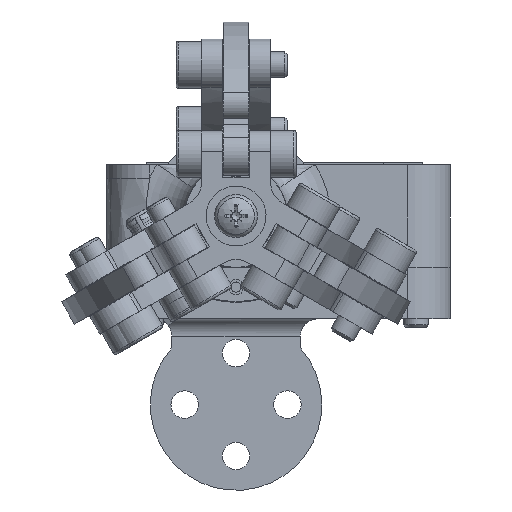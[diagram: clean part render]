
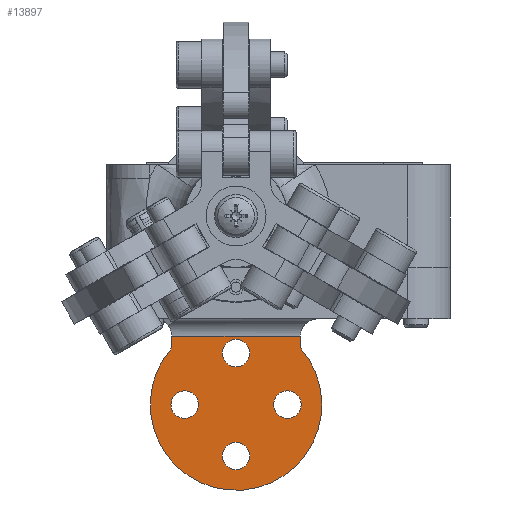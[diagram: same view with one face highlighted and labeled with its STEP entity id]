
A CAD part, front view. The second image highlights one B-rep face of the part: STEP entity #13897.
In plain terms, the highlighted planar face has unit normal (0, -1, 0).
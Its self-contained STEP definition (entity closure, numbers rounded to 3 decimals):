
#717=FACE_BOUND('',#2611,.T.);
#718=FACE_BOUND('',#2612,.T.);
#719=FACE_BOUND('',#2613,.T.);
#720=FACE_BOUND('',#2614,.T.);
#1094=PLANE('',#15344);
#1800=FACE_OUTER_BOUND('',#2610,.T.);
#2610=EDGE_LOOP('',(#12678,#12679,#12680,#12681));
#2611=EDGE_LOOP('',(#12682));
#2612=EDGE_LOOP('',(#12683));
#2613=EDGE_LOOP('',(#12684));
#2614=EDGE_LOOP('',(#12685));
#3805=LINE('',#40233,#5035);
#3806=LINE('',#40236,#5036);
#3809=LINE('',#40242,#5039);
#5035=VECTOR('',#18870,10.);
#5036=VECTOR('',#18873,10.);
#5039=VECTOR('',#18878,10.);
#5603=CIRCLE('',#15345,10.);
#5604=CIRCLE('',#15346,1.6);
#5605=CIRCLE('',#15347,1.6);
#5606=CIRCLE('',#15348,1.6);
#5607=CIRCLE('',#15349,1.6);
#6866=VERTEX_POINT('',#40208);
#6874=VERTEX_POINT('',#40224);
#6877=VERTEX_POINT('',#40235);
#6879=VERTEX_POINT('',#40241);
#6880=VERTEX_POINT('',#40244);
#6881=VERTEX_POINT('',#40246);
#6882=VERTEX_POINT('',#40248);
#6883=VERTEX_POINT('',#40250);
#8827=EDGE_CURVE('',#6874,#6866,#3805,.T.);
#8828=EDGE_CURVE('',#6877,#6866,#3806,.T.);
#8831=EDGE_CURVE('',#6874,#6879,#3809,.T.);
#8832=EDGE_CURVE('',#6879,#6877,#5603,.T.);
#8833=EDGE_CURVE('',#6880,#6880,#5604,.T.);
#8834=EDGE_CURVE('',#6881,#6881,#5605,.T.);
#8835=EDGE_CURVE('',#6882,#6882,#5606,.T.);
#8836=EDGE_CURVE('',#6883,#6883,#5607,.T.);
#12678=ORIENTED_EDGE('',*,*,#8827,.F.);
#12679=ORIENTED_EDGE('',*,*,#8831,.T.);
#12680=ORIENTED_EDGE('',*,*,#8832,.T.);
#12681=ORIENTED_EDGE('',*,*,#8828,.T.);
#12682=ORIENTED_EDGE('',*,*,#8833,.T.);
#12683=ORIENTED_EDGE('',*,*,#8834,.T.);
#12684=ORIENTED_EDGE('',*,*,#8835,.T.);
#12685=ORIENTED_EDGE('',*,*,#8836,.T.);
#13897=ADVANCED_FACE('',(#1800,#717,#718,#719,#720),#1094,.F.);
#15344=AXIS2_PLACEMENT_3D('',#40240,#18876,#18877);
#15345=AXIS2_PLACEMENT_3D('',#40243,#18879,#18880);
#15346=AXIS2_PLACEMENT_3D('',#40245,#18881,#18882);
#15347=AXIS2_PLACEMENT_3D('',#40247,#18883,#18884);
#15348=AXIS2_PLACEMENT_3D('',#40249,#18885,#18886);
#15349=AXIS2_PLACEMENT_3D('',#40251,#18887,#18888);
#18870=DIRECTION('',(-1.,0.,0.));
#18873=DIRECTION('',(0.,0.,-1.));
#18876=DIRECTION('center_axis',(0.,1.,0.));
#18877=DIRECTION('ref_axis',(0.,0.,1.));
#18878=DIRECTION('',(0.,0.,1.));
#18879=DIRECTION('center_axis',(0.,-1.,0.));
#18880=DIRECTION('ref_axis',(1.,0.,0.));
#18881=DIRECTION('center_axis',(0.,1.,0.));
#18882=DIRECTION('ref_axis',(1.,0.,0.));
#18883=DIRECTION('center_axis',(0.,1.,0.));
#18884=DIRECTION('ref_axis',(0.,0.,1.));
#18885=DIRECTION('center_axis',(0.,1.,0.));
#18886=DIRECTION('ref_axis',(-1.,0.,0.));
#18887=DIRECTION('center_axis',(0.,1.,0.));
#18888=DIRECTION('ref_axis',(0.,0.,-1.));
#40208=CARTESIAN_POINT('',(-7.5,14.,8.));
#40224=CARTESIAN_POINT('',(7.5,14.,8.));
#40233=CARTESIAN_POINT('',(-2.48,14.,8.));
#40235=CARTESIAN_POINT('',(-7.5,14.,9.386));
#40236=CARTESIAN_POINT('',(-7.5,14.,2.614));
#40240=CARTESIAN_POINT('Origin',(0.,14.,16.));
#40241=CARTESIAN_POINT('',(7.5,14.,9.386));
#40242=CARTESIAN_POINT('',(7.5,14.,9.386));
#40243=CARTESIAN_POINT('Origin',(0.,14.,16.));
#40244=CARTESIAN_POINT('',(4.4,14.,16.));
#40245=CARTESIAN_POINT('Origin',(6.,14.,16.));
#40246=CARTESIAN_POINT('',(0.,14.,20.4));
#40247=CARTESIAN_POINT('Origin',(0.,14.,22.));
#40248=CARTESIAN_POINT('',(-4.4,14.,16.));
#40249=CARTESIAN_POINT('Origin',(-6.,14.,16.));
#40250=CARTESIAN_POINT('',(0.,14.,11.6));
#40251=CARTESIAN_POINT('Origin',(0.,14.,10.));
